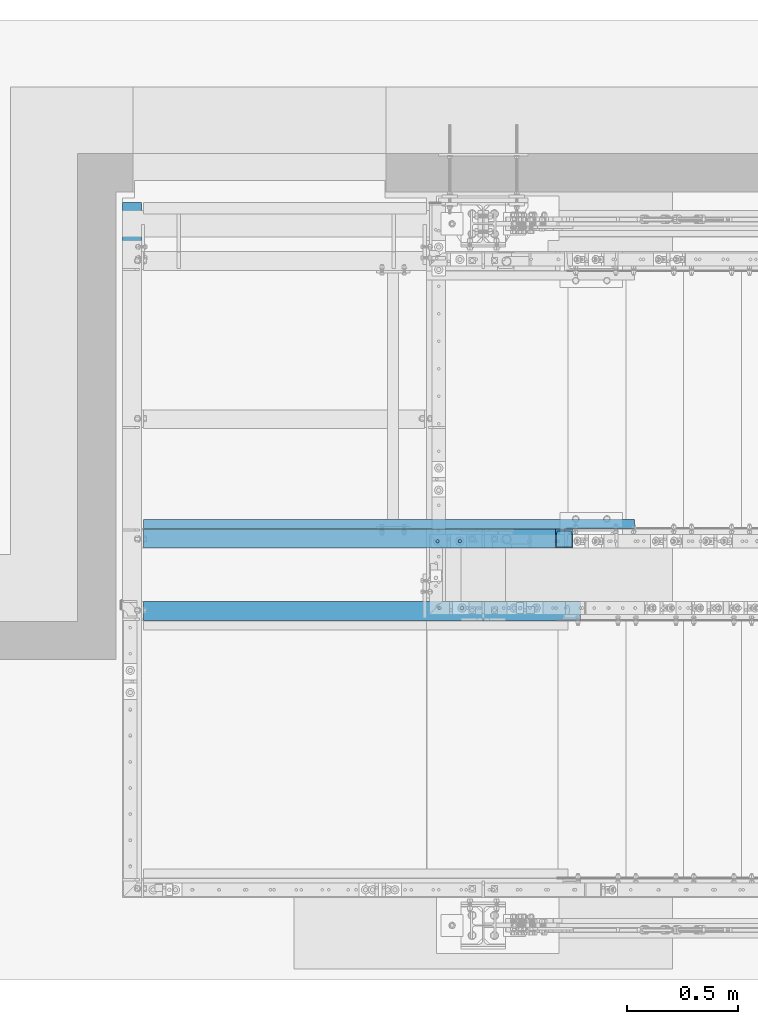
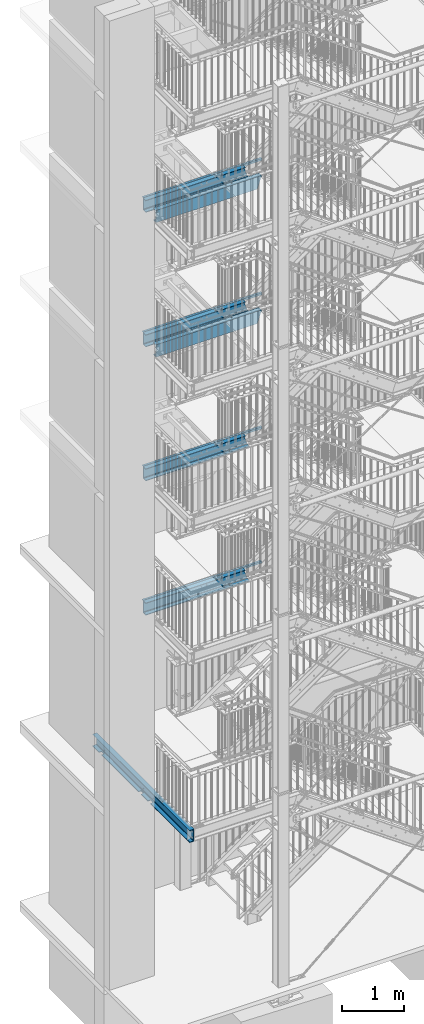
# One storey, part 115 of 825: 11 beams, 45 openings.
"""IFC2X3 building model written with IfcOpenShell, lengths in millimetres."""

import ifcopenshell
import ifcopenshell.guid

model = None  # the IFC model being written
_history = None  # IfcOwnerHistory: only IFC2X3 demands one
_inside = {}  # id of a spatial element -> (the spatial element, [elements in it])
_under = {}  # id of a project, library or spatial element -> (it, [spatial elements below it])
_declared = {}  # id of a project -> (the project, [libraries it declares])
_typed = {}  # id of a type object -> (the type object, [elements of that type])
_made_of = {}  # id of a material, layer set ... -> (it, [elements and type objects made of it])


def new_model(schema):
    """Start an empty IFC model of exactly this schema.

    Asked for "IFC4X3", IfcOpenShell would pick the latest addendum, in which some entities
    have other attributes; the version numbers below select the first issue.
    IFC2X3 requires an IfcOwnerHistory on every rooted entity: one is made here for all.
    """
    global model, _history
    if schema == "IFC4X3":
        model = ifcopenshell.file(schema_version=(4, 3, 0, 0))
    else:
        model = ifcopenshell.file(schema=schema)
    _inside.clear()
    _under.clear()
    _declared.clear()
    _typed.clear()
    _made_of.clear()
    _history = None
    if model.schema == "IFC2X3":
        org = make("IfcOrganization", Name="unknown")
        user = make(
            "IfcPersonAndOrganization",
            ThePerson=make("IfcPerson", FamilyName="unknown"),
            TheOrganization=org,
        )
        app = make(
            "IfcApplication",
            ApplicationDeveloper=org,
            Version="unknown",
            ApplicationFullName="unknown",
            ApplicationIdentifier="unknown",
        )
        _history = make(
            "IfcOwnerHistory",
            OwningUser=user,
            OwningApplication=app,
            ChangeAction="ADDED",
            CreationDate=0,
        )
    return model


def make(cls, **values):
    """One entity of the class cls with the attributes given. An attribute that is None is left unset."""
    return model.create_entity(
        cls, **{name: value for name, value in values.items() if value is not None}
    )


def entity(cls, *values):
    """Any entity or typed value of the class cls, its attributes in the order of the schema. None: left unset."""
    e = model.create_entity(cls)
    for i, value in enumerate(values):
        if value is not None:
            e[i] = value
    return e


def rooted(cls, **values):
    """An entity with a GlobalId (a new one), such as an element, a storey or a relation."""
    return make(cls, GlobalId=ifcopenshell.guid.new(), OwnerHistory=_history, **values)


def si_unit(unit_type, name, prefix=None):
    """IfcSIUnit, for example si_unit("LENGTHUNIT", "METRE", prefix="MILLI")."""
    return make("IfcSIUnit", UnitType=unit_type, Prefix=prefix, Name=name)


def converted_unit(unit_type, name, factor, base, dimensions=None, offset=None):
    """IfcConversionBasedUnit, such as the inch: factor (a typed value) times the base unit."""
    return make(
        "IfcConversionBasedUnit"
        if offset is None
        else "IfcConversionBasedUnitWithOffset",
        ConversionOffset=offset,
        Dimensions=None
        if dimensions is None
        else entity("IfcDimensionalExponents", *dimensions),
        UnitType=unit_type,
        Name=name,
        ConversionFactor=make(
            "IfcMeasureWithUnit", ValueComponent=factor, UnitComponent=base
        ),
    )


def assignment(units):
    """IfcUnitAssignment: the units of a project."""
    return None if units is None else make("IfcUnitAssignment", Units=units)


def point(xyz):
    """IfcCartesianPoint."""
    return None if xyz is None else make("IfcCartesianPoint", Coordinates=xyz)


def direction(xyz):
    """IfcDirection."""
    return None if xyz is None else make("IfcDirection", DirectionRatios=xyz)


def frame(location, z_axis=None, x_axis=None):
    """IfcAxis2Placement3D, a coordinate frame: its origin and axes. An axis left out is left unset."""
    return make(
        "IfcAxis2Placement3D",
        Location=point(location),
        Axis=direction(z_axis),
        RefDirection=direction(x_axis),
    )


def frame_2d(location, x_axis=None):
    """IfcAxis2Placement2D, a coordinate frame in the plane: its origin and x axis."""
    return make(
        "IfcAxis2Placement2D", Location=point(location), RefDirection=direction(x_axis)
    )


def origin():
    """The frame at (0, 0, 0) with its axes left unset."""
    return frame((0.0, 0.0, 0.0))


def origin_with_axes():
    """The frame at (0, 0, 0) with the z axis (0, 0, 1) and the x axis (1, 0, 0) written out."""
    return frame((0.0, 0.0, 0.0), z_axis=(0.0, 0.0, 1.0), x_axis=(1.0, 0.0, 0.0))


def origin_2d_with_axis():
    """The frame at (0, 0) in the plane with the x axis (1, 0) written out."""
    return frame_2d((0.0, 0.0), x_axis=(1.0, 0.0))


def place(relative_to, where):
    """IfcLocalPlacement: puts the frame where relative to a parent placement (None: the world)."""
    return make(
        "IfcLocalPlacement", PlacementRelTo=relative_to, RelativePlacement=where
    )


def context(
    kind, dimensions, precision=None, world=None, true_north=None, identifier=None
):
    """IfcGeometricRepresentationContext, for example the 3D "Model" context."""
    return make(
        "IfcGeometricRepresentationContext",
        ContextIdentifier=identifier,
        ContextType=kind,
        CoordinateSpaceDimension=dimensions,
        Precision=precision,
        WorldCoordinateSystem=world,
        TrueNorth=true_north,
    )


def project(units=None, contexts=None):
    """IfcProject with its units and contexts."""
    return rooted(
        "IfcProject",
        Name="project",
        RepresentationContexts=contexts,
        UnitsInContext=assignment(units),
    )


def spatial(cls, under=None, at=None, **own):
    """A site, building, storey or space (cls), placed at a placement, below another one or the project."""
    s = rooted(cls, ObjectPlacement=at, **own)
    if under is not None:
        _under.setdefault(under.id(), (under, []))[1].append(s)
    return s


def circle_curve(where, radius):
    """IfcCircle in the frame where."""
    return make("IfcCircle", Position=where, Radius=radius)


def line_curve(start, along, magnitude):
    """IfcLine from a point along a vector."""
    return make(
        "IfcLine",
        Pnt=point(start),
        Dir=make("IfcVector", Orientation=direction(along), Magnitude=magnitude),
    )


def trimmed(basis, trim1, trim2, sense, master):
    """IfcTrimmedCurve: the piece of a basis curve between two trims."""
    return make(
        "IfcTrimmedCurve",
        BasisCurve=basis,
        Trim1=trim1,
        Trim2=trim2,
        SenseAgreement=sense,
        MasterRepresentation=master,
    )


def segment(curve, same_sense, transition):
    """IfcCompositeCurveSegment."""
    return make(
        "IfcCompositeCurveSegment",
        Transition=transition,
        SameSense=same_sense,
        ParentCurve=curve,
    )


def composite_curve(segments, self_intersect=None):
    """IfcCompositeCurve: segments joined end to end."""
    return make("IfcCompositeCurve", Segments=segments, SelfIntersect=self_intersect)


def profile(cls, at=None, kind="AREA", **sizes):
    """A parametric profile (cls). Its sizes go by their IFC names, for example OverallWidth=200.0."""
    return make(cls, ProfileType=kind, Position=at, **sizes)


def circle(**sizes):
    """IfcCircleProfileDef."""
    return profile("IfcCircleProfileDef", **sizes)


def l_section(**sizes):
    """IfcLShapeProfileDef."""
    return profile("IfcLShapeProfileDef", **sizes)


def u_section(**sizes):
    """IfcUShapeProfileDef."""
    return profile("IfcUShapeProfileDef", **sizes)


def outline(outer, holes=None, kind="AREA"):
    """IfcArbitraryClosedProfileDef: a profile drawn as a closed curve; with holes, ...WithVoids."""
    if holes is None:
        return make("IfcArbitraryClosedProfileDef", ProfileType=kind, OuterCurve=outer)
    return make(
        "IfcArbitraryProfileDefWithVoids",
        ProfileType=kind,
        OuterCurve=outer,
        InnerCurves=holes,
    )


def extrude(swept, where, along, depth):
    """IfcExtrudedAreaSolid: the profile swept, set in the frame where, extruded along a direction by depth."""
    return make(
        "IfcExtrudedAreaSolid",
        SweptArea=swept,
        Position=where,
        ExtrudedDirection=direction(along),
        Depth=depth,
    )


def clip(a, b, op="DIFFERENCE"):
    """IfcBooleanClippingResult: the solid a cut by the half space b."""
    return make(
        "IfcBooleanClippingResult", Operator=op, FirstOperand=a, SecondOperand=b
    )


def halfspace(plane, agree):
    """IfcHalfSpaceSolid: all space on one side of the plane z = 0 of the frame plane."""
    return make(
        "IfcHalfSpaceSolid",
        BaseSurface=make("IfcPlane", Position=plane),
        AgreementFlag=agree,
    )


def shape(context_of_items, identifier, shape_type, items):
    """IfcShapeRepresentation: the items that make up one representation, for example the "Body"."""
    return make(
        "IfcShapeRepresentation",
        ContextOfItems=context_of_items,
        RepresentationIdentifier=identifier,
        RepresentationType=shape_type,
        Items=items,
    )


def material(Name=None, Category=None):
    """IfcMaterial."""
    return make("IfcMaterial", Name=Name, Category=Category)


def made_of(thing, what):
    """Note that an element or type object is made of a material, layer set ...; save() writes the relation."""
    if what is not None:
        _made_of.setdefault(what.id(), (what, []))[1].append(thing)
    return thing


def element(
    cls,
    number,
    at=None,
    inside=None,
    cuts=None,
    type_object=None,
    material=None,
    context=None,
    identifier="Body",
    shape_type=None,
    held_by="IfcProductDefinitionShape",
    body=None,
    shapes=None,
    **own,
):
    """One element of the class cls, such as IfcWall. Its Tag is "e" and its number.

    at: its placement. inside: the storey or other place that contains it. cuts: it is an
    opening in that element (IfcRelVoidsElement). A single representation is given by context,
    identifier, shape_type and body (its items); several are given by shapes. held_by: the class
    of the entity that holds the representations. save() writes the other relations.
    """
    e = rooted(cls, Tag="e%d" % number, ObjectPlacement=at, **own)
    if body is not None:
        shapes = [shape(context, identifier, shape_type, body)]
    if shapes is not None:
        e.Representation = make(held_by, Representations=shapes)
    if inside is not None:
        _inside.setdefault(inside.id(), (inside, []))[1].append(e)
    if cuts is not None:
        rooted(
            "IfcRelVoidsElement", RelatingBuildingElement=cuts, RelatedOpeningElement=e
        )
    if type_object is not None:
        _typed.setdefault(type_object.id(), (type_object, []))[1].append(e)
    return made_of(e, material)


def aggregate(whole, parts):
    """IfcRelAggregates: a whole, such as a stair, and the parts it consists of."""
    return rooted("IfcRelAggregates", RelatingObject=whole, RelatedObjects=parts)


def save(model, path):
    """Write the relations noted so far, then the file.

    IfcRelAggregates (storeys below a building ...), IfcRelContainedInSpatialStructure (elements
    in a storey), IfcRelDefinesByType, IfcRelAssociatesMaterial and IfcRelDeclares: one each for
    every whole, place, type object, material and project.
    """
    for whole, parts in _under.values():
        aggregate(whole, parts)
    for where, things in _inside.values():
        rooted(
            "IfcRelContainedInSpatialStructure",
            RelatedElements=things,
            RelatingStructure=where,
        )
    for kind, things in _typed.values():
        rooted("IfcRelDefinesByType", RelatedObjects=things, RelatingType=kind)
    for what, things in _made_of.values():
        rooted("IfcRelAssociatesMaterial", RelatedObjects=things, RelatingMaterial=what)
    for by, libraries in _declared.values():
        rooted("IfcRelDeclares", RelatingContext=by, RelatedDefinitions=libraries)
    model.write(path)


model = new_model("IFC2X3")

# Units and contexts
model_context = context("Model", 3, precision=1e-09, world=origin_with_axes())
ifc_project = project(units=[si_unit("LENGTHUNIT", "METRE", prefix="MILLI"), si_unit("AREAUNIT", "SQUARE_METRE"), si_unit("VOLUMEUNIT", "CUBIC_METRE"), converted_unit("PLANEANGLEUNIT", "DEGREE", entity("IfcPlaneAngleMeasure", 0.01745329), si_unit("PLANEANGLEUNIT", "RADIAN"), dimensions=[0, 0, 0, 0, 0, 0, 0])], contexts=[model_context])

# Site, building, storey
site_placement = place(None, origin_with_axes())
site = spatial("IfcSite", under=ifc_project, at=site_placement, Name="Cnopf'sche Kinderklinik", CompositionType="ELEMENT")
building_placement = place(site_placement, origin_with_axes())
building = spatial("IfcBuilding", under=site, at=building_placement, Name="Struktur 1", CompositionType="ELEMENT")
storey_placement = place(building_placement, origin_with_axes())
storey = spatial("IfcBuildingStorey", under=building, at=storey_placement, Name="Default Storey", CompositionType="ELEMENT", Elevation=0.0)

# Beam
ifc_material = material(Name="S235JR")
beam_1_placement = place(None, frame((5535.970929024, 6160.936971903, 9940.8), z_axis=(1.0, 0.0, 0.0), x_axis=(0.0, 0.0, -1.0)))
element("IfcBeam", 1, at=beam_1_placement, inside=storey, material=ifc_material, Name="BottomLanding#3", ObjectType="BottomLanding#3", context=model_context, shape_type="SweptSolid", body=[
    extrude(l_section(Depth=40.0, Width=40.0, Thickness=4.0, FilletRadius=6.0, EdgeRadius=3.0, at=frame_2d((8.8, 8.8))), origin(), (0.0, 0.0, -1.0), 2204.257526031),
])

# Beam, openings
beam_2_placement = place(None, frame((3074.409632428, 6124.436971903, 9832.0), z_axis=(-1.0, 0.0, 0.0), x_axis=(0.0, -1.0, 0.0)))
beam_2 = element("IfcBeam", 2, at=beam_2_placement, inside=storey, material=ifc_material, Name="BottomLanding#1", ObjectType="BottomLanding#1", context=model_context, shape_type="Clipping", body=[
    clip(clip(extrude(u_section(Depth=240.0, FlangeWidth=85.0, WebThickness=9.5, FlangeThickness=13.0, FilletRadius=13.0, EdgeRadius=6.5, FlangeSlope=4.574, at=frame_2d((20.2, 0.0))), origin(), (0.0, 0.0, -1.0), 2366.776191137), halfspace(frame((6124.436971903, -9832.0, -257.304770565), z_axis=(0.0, 0.0, -1.0), x_axis=(-1.0, 0.0, 0.0)), True)), halfspace(frame((6124.436971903, -7374.852372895, -4528.957619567), z_axis=(0.0, -0.307506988, 0.951545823), x_axis=(1.0, 0.0, 0.0)), True)),
])
opening_1_placement = place(beam_2_placement, frame((-12.3, 20.0, -1420.302770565), z_axis=(1.0, 0.0, 0.0), x_axis=(0.0, 1.0, 0.0)))
element("IfcOpeningElement", 3, at=opening_1_placement, cuts=beam_2, ObjectType="Opening", context=model_context, shape_type="SweptSolid", body=[
    extrude(circle(Radius=7.001, at=frame_2d((0.0, -7.001), x_axis=(1.0, 0.0))), origin(), (0.0, 0.0, -1.0), 10.5),
])
opening_2_placement = place(beam_2_placement, frame((-12.3, 20.0, -1320.302770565), z_axis=(1.0, 0.0, 0.0), x_axis=(0.0, 1.0, 0.0)))
element("IfcOpeningElement", 4, at=opening_2_placement, cuts=beam_2, ObjectType="Opening", context=model_context, shape_type="SweptSolid", body=[
    extrude(circle(Radius=7.001, at=frame_2d((0.0, -7.001), x_axis=(1.0, 0.0))), origin(), (0.0, 0.0, -1.0), 10.5),
])
opening_3_placement = place(beam_2_placement, frame((32.7, 120.5, -1670.302770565), z_axis=(0.0, 1.0, 0.0), x_axis=(-1.0, 0.0, 0.0)))
element("IfcOpeningElement", 5, at=opening_3_placement, cuts=beam_2, ObjectType="Opening", context=model_context, shape_type="SweptSolid", body=[
    extrude(circle(Radius=7.001, at=frame_2d((0.0, -7.001), x_axis=(1.0, 0.0))), origin(), (0.0, 0.0, -1.0), 14.0),
])
opening_4_placement = place(beam_2_placement, frame((32.7, 120.5, -1570.302770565), z_axis=(0.0, 1.0, 0.0), x_axis=(-1.0, 0.0, 0.0)))
element("IfcOpeningElement", 6, at=opening_4_placement, cuts=beam_2, ObjectType="Opening", context=model_context, shape_type="SweptSolid", body=[
    extrude(circle(Radius=7.001, at=frame_2d((0.0, -7.001), x_axis=(1.0, 0.0))), origin(), (0.0, 0.0, -1.0), 14.0),
])
opening_5_placement = place(beam_2_placement, frame((22.7, -120.5, -1732.303770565), z_axis=(0.0, 1.0, 0.0), x_axis=(-1.0, 0.0, 0.0)))
element("IfcOpeningElement", 7, at=opening_5_placement, cuts=beam_2, ObjectType="Opening", context=model_context, shape_type="SweptSolid", body=[
    extrude(circle(Radius=7.001, at=origin_2d_with_axis()), origin(), (0.0, 0.0, 1.0), 14.0),
])
opening_6_placement = place(beam_2_placement, frame((22.7, -120.5, -1832.303770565), z_axis=(0.0, 1.0, 0.0), x_axis=(-1.0, 0.0, 0.0)))
element("IfcOpeningElement", 8, at=opening_6_placement, cuts=beam_2, ObjectType="Opening", context=model_context, shape_type="SweptSolid", body=[
    extrude(circle(Radius=7.001, at=origin_2d_with_axis()), origin(), (0.0, 0.0, 1.0), 14.0),
])

beam_3_placement = place(None, frame((3074.409632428, 6124.436971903, 7200.0), z_axis=(-1.0, 0.0, 0.0), x_axis=(0.0, -1.0, 0.0)))
beam_3 = element("IfcBeam", 9, at=beam_3_placement, inside=storey, material=ifc_material, Name="BottomLanding#1", ObjectType="BottomLanding#1", context=model_context, shape_type="Clipping", body=[
    clip(clip(extrude(u_section(Depth=240.0, FlangeWidth=85.0, WebThickness=9.5, FlangeThickness=13.0, FilletRadius=13.0, EdgeRadius=6.5, FlangeSlope=4.574, at=frame_2d((20.2, 0.0))), origin(), (0.0, 0.0, -1.0), 2366.919417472), halfspace(frame((6124.436971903, -7200.0, -257.304770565), z_axis=(0.0, 0.0, -1.0), x_axis=(-1.0, 0.0, 0.0)), True)), halfspace(frame((6124.436971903, -4987.874923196, -3760.219943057), z_axis=(0.0, -0.307936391, 0.951406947), x_axis=(1.0, 0.0, 0.0)), True)),
])
opening_7_placement = place(beam_3_placement, frame((-12.3, 20.0, -1420.302770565), z_axis=(1.0, 0.0, 0.0), x_axis=(0.0, 1.0, 0.0)))
element("IfcOpeningElement", 10, at=opening_7_placement, cuts=beam_3, ObjectType="Opening", context=model_context, shape_type="SweptSolid", body=[
    extrude(circle(Radius=7.001, at=frame_2d((0.0, -7.001), x_axis=(1.0, 0.0))), origin(), (0.0, 0.0, -1.0), 10.5),
])
opening_8_placement = place(beam_3_placement, frame((-12.3, 20.0, -1320.302770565), z_axis=(1.0, 0.0, 0.0), x_axis=(0.0, 1.0, 0.0)))
element("IfcOpeningElement", 11, at=opening_8_placement, cuts=beam_3, ObjectType="Opening", context=model_context, shape_type="SweptSolid", body=[
    extrude(circle(Radius=7.001, at=frame_2d((0.0, -7.001), x_axis=(1.0, 0.0))), origin(), (0.0, 0.0, -1.0), 10.5),
])
opening_9_placement = place(beam_3_placement, frame((32.7, 120.5, -1670.302770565), z_axis=(0.0, 1.0, 0.0), x_axis=(-1.0, 0.0, 0.0)))
element("IfcOpeningElement", 12, at=opening_9_placement, cuts=beam_3, ObjectType="Opening", context=model_context, shape_type="SweptSolid", body=[
    extrude(circle(Radius=7.001, at=frame_2d((0.0, -7.001), x_axis=(1.0, 0.0))), origin(), (0.0, 0.0, -1.0), 14.0),
])
opening_10_placement = place(beam_3_placement, frame((32.7, 120.5, -1570.302770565), z_axis=(0.0, 1.0, 0.0), x_axis=(-1.0, 0.0, 0.0)))
element("IfcOpeningElement", 13, at=opening_10_placement, cuts=beam_3, ObjectType="Opening", context=model_context, shape_type="SweptSolid", body=[
    extrude(circle(Radius=7.001, at=frame_2d((0.0, -7.001), x_axis=(1.0, 0.0))), origin(), (0.0, 0.0, -1.0), 14.0),
])
opening_11_placement = place(beam_3_placement, frame((22.7, -120.5, -1832.303770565), z_axis=(0.0, 1.0, 0.0), x_axis=(-1.0, 0.0, 0.0)))
element("IfcOpeningElement", 14, at=opening_11_placement, cuts=beam_3, ObjectType="Opening", context=model_context, shape_type="SweptSolid", body=[
    extrude(circle(Radius=7.001, at=origin_2d_with_axis()), origin(), (0.0, 0.0, 1.0), 14.0),
])
opening_12_placement = place(beam_3_placement, frame((22.7, -120.5, -1732.303770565), z_axis=(0.0, 1.0, 0.0), x_axis=(-1.0, 0.0, 0.0)))
element("IfcOpeningElement", 15, at=opening_12_placement, cuts=beam_3, ObjectType="Opening", context=model_context, shape_type="SweptSolid", body=[
    extrude(circle(Radius=7.001, at=origin_2d_with_axis()), origin(), (0.0, 0.0, 1.0), 14.0),
])

# Beam
beam_4_placement = place(None, frame((5535.66941246, 6160.936971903, 7308.8), z_axis=(1.0, 0.0, 0.0), x_axis=(0.0, 0.0, -1.0)))
element("IfcBeam", 16, at=beam_4_placement, inside=storey, material=ifc_material, Name="BottomLanding#3", ObjectType="BottomLanding#3", context=model_context, shape_type="SweptSolid", body=[
    extrude(l_section(Depth=40.0, Width=40.0, Thickness=4.0, FilletRadius=6.0, EdgeRadius=3.0, at=frame_2d((8.8, 8.8))), origin(), (0.0, 0.0, -1.0), 2203.956009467),
])

# Beam, openings
beam_5_placement = place(None, frame((3074.409632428, 6124.436971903, 12459.0), z_axis=(-1.0, 0.0, 0.0), x_axis=(0.0, -1.0, 0.0)))
beam_5 = element("IfcBeam", 17, at=beam_5_placement, inside=storey, material=ifc_material, Name="BottomLanding#1", ObjectType="BottomLanding#1", context=model_context, shape_type="Clipping", body=[
    clip(clip(extrude(u_section(Depth=240.0, FlangeWidth=85.0, WebThickness=9.5, FlangeThickness=13.0, FilletRadius=13.0, EdgeRadius=6.5, FlangeSlope=4.574, at=frame_2d((20.2, 0.0))), origin(), (0.0, 0.0, -1.0), 2367.005168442), halfspace(frame((6124.436971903, -12459.0, -257.304770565), z_axis=(0.0, 0.0, -1.0), x_axis=(-1.0, 0.0, 0.0)), True)), halfspace(frame((6124.436971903, -9745.042702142, -5302.956230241), z_axis=(0.0, -0.308193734, 0.951323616), x_axis=(1.0, 0.0, 0.0)), True)),
])
opening_13_placement = place(beam_5_placement, frame((-12.3, 20.0, -1420.302770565), z_axis=(1.0, 0.0, 0.0), x_axis=(0.0, 1.0, 0.0)))
element("IfcOpeningElement", 18, at=opening_13_placement, cuts=beam_5, ObjectType="Opening", context=model_context, shape_type="SweptSolid", body=[
    extrude(circle(Radius=7.001, at=frame_2d((0.0, -7.001), x_axis=(1.0, 0.0))), origin(), (0.0, 0.0, -1.0), 10.5),
])
opening_14_placement = place(beam_5_placement, frame((-12.3, 20.0, -1320.302770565), z_axis=(1.0, 0.0, 0.0), x_axis=(0.0, 1.0, 0.0)))
element("IfcOpeningElement", 19, at=opening_14_placement, cuts=beam_5, ObjectType="Opening", context=model_context, shape_type="SweptSolid", body=[
    extrude(circle(Radius=7.001, at=frame_2d((0.0, -7.001), x_axis=(1.0, 0.0))), origin(), (0.0, 0.0, -1.0), 10.5),
])
opening_15_placement = place(beam_5_placement, frame((32.7, 120.5, -1670.302770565), z_axis=(0.0, 1.0, 0.0), x_axis=(-1.0, 0.0, 0.0)))
element("IfcOpeningElement", 20, at=opening_15_placement, cuts=beam_5, ObjectType="Opening", context=model_context, shape_type="SweptSolid", body=[
    extrude(circle(Radius=7.001, at=frame_2d((0.0, -7.001), x_axis=(1.0, 0.0))), origin(), (0.0, 0.0, -1.0), 14.0),
])
opening_16_placement = place(beam_5_placement, frame((32.7, 120.5, -1570.302770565), z_axis=(0.0, 1.0, 0.0), x_axis=(-1.0, 0.0, 0.0)))
element("IfcOpeningElement", 21, at=opening_16_placement, cuts=beam_5, ObjectType="Opening", context=model_context, shape_type="SweptSolid", body=[
    extrude(circle(Radius=7.001, at=frame_2d((0.0, -7.001), x_axis=(1.0, 0.0))), origin(), (0.0, 0.0, -1.0), 14.0),
])
opening_17_placement = place(beam_5_placement, frame((22.7, -120.5, -1732.303770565), z_axis=(0.0, 1.0, 0.0), x_axis=(-1.0, 0.0, 0.0)))
element("IfcOpeningElement", 22, at=opening_17_placement, cuts=beam_5, ObjectType="Opening", context=model_context, shape_type="SweptSolid", body=[
    extrude(circle(Radius=7.001, at=origin_2d_with_axis()), origin(), (0.0, 0.0, 1.0), 14.0),
])
opening_18_placement = place(beam_5_placement, frame((22.7, -120.5, -1832.303770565), z_axis=(0.0, 1.0, 0.0), x_axis=(-1.0, 0.0, 0.0)))
element("IfcOpeningElement", 23, at=opening_18_placement, cuts=beam_5, ObjectType="Opening", context=model_context, shape_type="SweptSolid", body=[
    extrude(circle(Radius=7.001, at=origin_2d_with_axis()), origin(), (0.0, 0.0, 1.0), 14.0),
])

# Beam
beam_6_placement = place(None, frame((5535.489211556, 6160.936971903, 12567.8), z_axis=(1.0, 0.0, 0.0), x_axis=(0.0, 0.0, -1.0)))
element("IfcBeam", 24, at=beam_6_placement, inside=storey, material=ifc_material, Name="BottomLanding#3", ObjectType="BottomLanding#3", context=model_context, shape_type="SweptSolid", body=[
    extrude(l_section(Depth=40.0, Width=40.0, Thickness=4.0, FilletRadius=6.0, EdgeRadius=3.0, at=frame_2d((8.8, 8.8))), origin(), (0.0, 0.0, -1.0), 2203.775808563),
])

# Beam, openings
beam_7_placement = place(None, frame((3074.409632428, 6124.436971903, 15094.0), z_axis=(-1.0, 0.0, 0.0), x_axis=(0.0, -1.0, 0.0)))
beam_7 = element("IfcBeam", 25, at=beam_7_placement, inside=storey, material=ifc_material, Name="BottomLanding#1", ObjectType="BottomLanding#1", context=model_context, shape_type="Clipping", body=[
    clip(clip(extrude(u_section(Depth=240.0, FlangeWidth=85.0, WebThickness=9.5, FlangeThickness=13.0, FilletRadius=13.0, EdgeRadius=6.5, FlangeSlope=4.574, at=frame_2d((20.2, 0.0))), origin(), (0.0, 0.0, -1.0), 2366.575023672), halfspace(frame((6124.436971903, -15094.0, -257.304770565), z_axis=(0.0, 0.0, -1.0), x_axis=(-1.0, 0.0, 0.0)), True)), halfspace(frame((6124.436971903, -12147.607204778, -6062.628184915), z_axis=(0.0, -0.306904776, 0.951740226), x_axis=(1.0, 0.0, 0.0)), True)),
])
opening_19_placement = place(beam_7_placement, frame((-12.3, 20.0, -1420.302770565), z_axis=(1.0, 0.0, 0.0), x_axis=(0.0, 1.0, 0.0)))
element("IfcOpeningElement", 26, at=opening_19_placement, cuts=beam_7, ObjectType="Opening", context=model_context, shape_type="SweptSolid", body=[
    extrude(circle(Radius=7.001, at=frame_2d((0.0, -7.001), x_axis=(1.0, 0.0))), origin(), (0.0, 0.0, -1.0), 10.5),
])
opening_20_placement = place(beam_7_placement, frame((-12.3, 20.0, -1320.302770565), z_axis=(1.0, 0.0, 0.0), x_axis=(0.0, 1.0, 0.0)))
element("IfcOpeningElement", 27, at=opening_20_placement, cuts=beam_7, ObjectType="Opening", context=model_context, shape_type="SweptSolid", body=[
    extrude(circle(Radius=7.001, at=frame_2d((0.0, -7.001), x_axis=(1.0, 0.0))), origin(), (0.0, 0.0, -1.0), 10.5),
])
opening_21_placement = place(beam_7_placement, frame((32.7, 120.5, -1670.302770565), z_axis=(0.0, 1.0, 0.0), x_axis=(-1.0, 0.0, 0.0)))
element("IfcOpeningElement", 28, at=opening_21_placement, cuts=beam_7, ObjectType="Opening", context=model_context, shape_type="SweptSolid", body=[
    extrude(circle(Radius=7.001, at=frame_2d((0.0, -7.001), x_axis=(1.0, 0.0))), origin(), (0.0, 0.0, -1.0), 14.0),
])
opening_22_placement = place(beam_7_placement, frame((32.7, 120.5, -1570.302770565), z_axis=(0.0, 1.0, 0.0), x_axis=(-1.0, 0.0, 0.0)))
element("IfcOpeningElement", 29, at=opening_22_placement, cuts=beam_7, ObjectType="Opening", context=model_context, shape_type="SweptSolid", body=[
    extrude(circle(Radius=7.001, at=frame_2d((0.0, -7.001), x_axis=(1.0, 0.0))), origin(), (0.0, 0.0, -1.0), 14.0),
])
opening_23_placement = place(beam_7_placement, frame((22.7, -120.5, -1732.303770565), z_axis=(0.0, 1.0, 0.0), x_axis=(-1.0, 0.0, 0.0)))
element("IfcOpeningElement", 30, at=opening_23_placement, cuts=beam_7, ObjectType="Opening", context=model_context, shape_type="SweptSolid", body=[
    extrude(circle(Radius=7.001, at=origin_2d_with_axis()), origin(), (0.0, 0.0, 1.0), 14.0),
])
opening_24_placement = place(beam_7_placement, frame((22.7, -120.5, -1832.303770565), z_axis=(0.0, 1.0, 0.0), x_axis=(-1.0, 0.0, 0.0)))
element("IfcOpeningElement", 31, at=opening_24_placement, cuts=beam_7, ObjectType="Opening", context=model_context, shape_type="SweptSolid", body=[
    extrude(circle(Radius=7.001, at=origin_2d_with_axis()), origin(), (0.0, 0.0, 1.0), 14.0),
])

# Beam
beam_8_placement = place(None, frame((5536.395549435, 6160.936971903, 15202.8), z_axis=(1.0, 0.0, 0.0), x_axis=(0.0, 0.0, -1.0)))
element("IfcBeam", 32, at=beam_8_placement, inside=storey, material=ifc_material, Name="BottomLanding#3", ObjectType="BottomLanding#3", context=model_context, shape_type="SweptSolid", body=[
    extrude(l_section(Depth=40.0, Width=40.0, Thickness=4.0, FilletRadius=6.0, EdgeRadius=3.0, at=frame_2d((8.8, 8.8))), origin(), (0.0, 0.0, -1.0), 2204.682146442),
])

# Beam, openings
beam_9_placement = place(None, frame((5552.034700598, 5759.036971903, 12459.0), z_axis=(1.0, 0.0, 0.0), x_axis=(0.0, 1.0, 0.0)))
beam_9 = element("IfcBeam", 33, at=beam_9_placement, inside=storey, material=ifc_material, Name="Stringer", ObjectType="Stringer", context=model_context, shape_type="Clipping", body=[
    clip(clip(extrude(u_section(Depth=240.0, FlangeWidth=85.0, WebThickness=9.5, FlangeThickness=13.0, FilletRadius=13.0, EdgeRadius=6.5, FlangeSlope=4.574, at=frame_2d((20.2, 0.0))), origin(), (0.0, 0.0, -1.0), 2477.62506817), halfspace(frame((-5759.036971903, -12459.0, -2220.320297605), z_axis=(0.0, 0.0, 1.0), x_axis=(1.0, 0.0, 0.0)), True)), halfspace(frame((-5759.036971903, -12818.039088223, -4441.028582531), z_axis=(0.0, 0.307506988, -0.951545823), x_axis=(-1.0, 0.0, 0.0)), True)),
])
opening_25_placement = place(beam_9_placement, frame((32.7, 120.5, -883.320297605), z_axis=(0.0, 1.0, 0.0), x_axis=(-1.0, 0.0, 0.0)))
element("IfcOpeningElement", 34, at=opening_25_placement, cuts=beam_9, ObjectType="Opening", context=model_context, shape_type="SweptSolid", body=[
    extrude(circle(Radius=7.001, at=frame_2d((0.0, -7.001), x_axis=(1.0, 0.0))), origin(), (0.0, 0.0, -1.0), 14.0),
])
opening_26_placement = place(beam_9_placement, frame((32.7, 120.5, -783.320297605), z_axis=(0.0, 1.0, 0.0), x_axis=(-1.0, 0.0, 0.0)))
element("IfcOpeningElement", 35, at=opening_26_placement, cuts=beam_9, ObjectType="Opening", context=model_context, shape_type="SweptSolid", body=[
    extrude(circle(Radius=7.001, at=frame_2d((0.0, -7.001), x_axis=(1.0, 0.0))), origin(), (0.0, 0.0, -1.0), 14.0),
])
opening_27_placement = place(beam_9_placement, frame((15.699, -120.5, -645.321297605), z_axis=(0.0, -1.0, 0.0), x_axis=(1.0, 0.0, 0.0)))
element("IfcOpeningElement", 36, at=opening_27_placement, cuts=beam_9, ObjectType="Opening", context=model_context, shape_type="SweptSolid", body=[
    extrude(circle(Radius=7.001, at=frame_2d((7.001, 0.0), x_axis=(1.0, 0.0))), origin(), (0.0, 0.0, -1.0), 14.0),
])
opening_28_placement = place(beam_9_placement, frame((15.699, -120.5, -745.321297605), z_axis=(0.0, -1.0, 0.0), x_axis=(1.0, 0.0, 0.0)))
element("IfcOpeningElement", 37, at=opening_28_placement, cuts=beam_9, ObjectType="Opening", context=model_context, shape_type="SweptSolid", body=[
    extrude(circle(Radius=7.001, at=frame_2d((7.001, 0.0), x_axis=(1.0, 0.0))), origin(), (0.0, 0.0, -1.0), 14.0),
])

beam_10_placement = place(None, frame((5551.927134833, 5759.036971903, 15094.0), z_axis=(1.0, 0.0, 0.0), x_axis=(0.0, 1.0, 0.0)))
beam_10 = element("IfcBeam", 38, at=beam_10_placement, inside=storey, material=ifc_material, Name="Stringer", ObjectType="Stringer", context=model_context, shape_type="Clipping", body=[
    clip(clip(extrude(u_section(Depth=240.0, FlangeWidth=85.0, WebThickness=9.5, FlangeThickness=13.0, FilletRadius=13.0, EdgeRadius=6.5, FlangeSlope=4.574, at=frame_2d((20.2, 0.0))), origin(), (0.0, 0.0, -1.0), 2477.517502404), halfspace(frame((-5759.036971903, -15094.0, -2220.21273184), z_axis=(0.0, 0.0, 1.0), x_axis=(1.0, 0.0, 0.0)), True)), halfspace(frame((-5759.036971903, -15200.485604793, -5223.230411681), z_axis=(0.0, 0.308193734, -0.951323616), x_axis=(-1.0, 0.0, 0.0)), True)),
])
opening_29_placement = place(beam_10_placement, frame((32.7, 120.5, -883.21273184), z_axis=(0.0, 1.0, 0.0), x_axis=(-1.0, 0.0, 0.0)))
element("IfcOpeningElement", 39, at=opening_29_placement, cuts=beam_10, ObjectType="Opening", context=model_context, shape_type="SweptSolid", body=[
    extrude(circle(Radius=7.001, at=frame_2d((0.0, -7.001), x_axis=(1.0, 0.0))), origin(), (0.0, 0.0, -1.0), 14.0),
])
opening_30_placement = place(beam_10_placement, frame((32.7, 120.5, -783.21273184), z_axis=(0.0, 1.0, 0.0), x_axis=(-1.0, 0.0, 0.0)))
element("IfcOpeningElement", 40, at=opening_30_placement, cuts=beam_10, ObjectType="Opening", context=model_context, shape_type="SweptSolid", body=[
    extrude(circle(Radius=7.001, at=frame_2d((0.0, -7.001), x_axis=(1.0, 0.0))), origin(), (0.0, 0.0, -1.0), 14.0),
])
opening_31_placement = place(beam_10_placement, frame((15.699, -120.5, -645.21373184), z_axis=(0.0, -1.0, 0.0), x_axis=(1.0, 0.0, 0.0)))
element("IfcOpeningElement", 41, at=opening_31_placement, cuts=beam_10, ObjectType="Opening", context=model_context, shape_type="SweptSolid", body=[
    extrude(circle(Radius=7.001, at=frame_2d((7.001, 0.0), x_axis=(1.0, 0.0))), origin(), (0.0, 0.0, -1.0), 14.0),
])
opening_32_placement = place(beam_10_placement, frame((15.699, -120.5, -745.21373184), z_axis=(0.0, -1.0, 0.0), x_axis=(1.0, 0.0, 0.0)))
element("IfcOpeningElement", 42, at=opening_32_placement, cuts=beam_10, ObjectType="Opening", context=model_context, shape_type="SweptSolid", body=[
    extrude(circle(Radius=7.001, at=frame_2d((7.001, 0.0), x_axis=(1.0, 0.0))), origin(), (0.0, 0.0, -1.0), 14.0),
])

beam_11_placement = place(None, frame((3299.413402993, 4491.736971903, 3727.0), z_axis=(0.0, 1.0, 0.0), x_axis=(-1.0, 0.0, 0.0)))
beam_11 = element("IfcBeam", 43, at=beam_11_placement, inside=storey, material=ifc_material, Name="Girder", ObjectType="Girder", context=model_context, shape_type="SweptSolid", body=[
    extrude(u_section(Depth=240.0, FlangeWidth=85.0, WebThickness=9.5, FlangeThickness=13.0, FilletRadius=13.0, EdgeRadius=6.5, FlangeSlope=4.574, at=frame_2d((20.2, 0.0))), origin(), (0.0, 0.0, 1.0), 3120.0),
])
opening_33_placement = place(beam_11_placement, frame((81.62874817, -30.0, 1269.999), z_axis=(0.0, 1.0, 0.0), x_axis=(-0.707106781, 0.0, -0.707106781)))
element("IfcOpeningElement", 44, at=opening_33_placement, cuts=beam_11, ObjectType="Opening", context=model_context, shape_type="SweptSolid", body=[
    extrude(outline(composite_curve([segment(trimmed(circle_curve(frame_2d((7.071067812, 7.071067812), x_axis=(1.0, 0.0)), 10.0), [point((0.0, 0.0))], [point((14.142135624, 0.0))], True, "CARTESIAN"), True, "CONTINUOUS"), segment(trimmed(line_curve((14.142135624, 0.0), (0.707106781, 0.707106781), 48.92974817), [point((14.142135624, 0.0))], [point((48.740692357, 34.598556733))], True, "CARTESIAN"), True, "CONTINUOUS"), segment(trimmed(circle_curve(frame_2d((41.669624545, 41.669624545), x_axis=(1.0, 0.0)), 10.0), [point((48.740692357, 34.598556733))], [point((48.740692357, 48.740692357))], True, "CARTESIAN"), True, "CONTINUOUS"), segment(trimmed(line_curve((48.740692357, 48.740692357), (-0.707106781, 0.707106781), 60.002), [point((48.740692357, 48.740692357))], [point((6.312871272, 91.168513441))], True, "CARTESIAN"), True, "CONTINUOUS"), segment(trimmed(circle_curve(frame_2d((-0.75819654, 84.097445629), x_axis=(1.0, 0.0)), 10.0), [point((6.312871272, 91.168513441))], [point((-7.829264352, 91.168513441))], True, "CARTESIAN"), True, "CONTINUOUS"), segment(trimmed(line_curve((-7.829264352, 91.168513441), (-0.707106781, -0.707106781), 48.92974817), [point((-7.829264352, 91.168513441))], [point((-42.427821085, 56.569956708))], True, "CARTESIAN"), True, "CONTINUOUS"), segment(trimmed(circle_curve(frame_2d((-35.356753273, 49.498888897), x_axis=(1.0, 0.0)), 10.0), [point((-42.427821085, 56.569956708))], [point((-42.427821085, 42.427821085))], True, "CARTESIAN"), True, "CONTINUOUS"), segment(trimmed(line_curve((-42.427821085, 42.427821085), (0.707106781, -0.707106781), 60.002), [point((-42.427821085, 42.427821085))], [point((0.0, 0.0))], True, "CARTESIAN"), True, "CONTINUOUS")], self_intersect=False)), origin(), (0.0, 0.0, -1.0), 190.1),
])
opening_34_placement = place(beam_11_placement, frame((82.514590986, -30.0, 1569.999), z_axis=(0.0, 1.0, 0.0), x_axis=(-0.707106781, 0.0, -0.707106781)))
element("IfcOpeningElement", 45, at=opening_34_placement, cuts=beam_11, ObjectType="Opening", context=model_context, shape_type="SweptSolid", body=[
    extrude(outline(composite_curve([segment(trimmed(circle_curve(frame_2d((7.071067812, 7.071067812), x_axis=(1.0, 0.0)), 10.0), [point((0.0, 0.0))], [point((14.142135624, 0.0))], True, "CARTESIAN"), True, "CONTINUOUS"), segment(trimmed(line_curve((14.142135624, 0.0), (0.707106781, 0.707106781), 49.815590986), [point((14.142135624, 0.0))], [point((49.367077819, 35.224942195))], True, "CARTESIAN"), True, "CONTINUOUS"), segment(trimmed(circle_curve(frame_2d((42.296010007, 42.296010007), x_axis=(1.0, 0.0)), 10.0), [point((49.367077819, 35.224942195))], [point((49.367077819, 49.367077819))], True, "CARTESIAN"), True, "CONTINUOUS"), segment(trimmed(line_curve((49.367077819, 49.367077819), (-0.707106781, 0.707106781), 60.002), [point((49.367077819, 49.367077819))], [point((6.939256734, 91.794898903))], True, "CARTESIAN"), True, "CONTINUOUS"), segment(trimmed(circle_curve(frame_2d((-0.131811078, 84.723831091), x_axis=(1.0, 0.0)), 10.0), [point((6.939256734, 91.794898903))], [point((-7.20287889, 91.794898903))], True, "CARTESIAN"), True, "CONTINUOUS"), segment(trimmed(line_curve((-7.20287889, 91.794898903), (-0.707106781, -0.707106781), 49.815590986), [point((-7.20287889, 91.794898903))], [point((-42.427821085, 56.569956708))], True, "CARTESIAN"), True, "CONTINUOUS"), segment(trimmed(circle_curve(frame_2d((-35.356753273, 49.498888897), x_axis=(1.0, 0.0)), 10.0), [point((-42.427821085, 56.569956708))], [point((-42.427821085, 42.427821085))], True, "CARTESIAN"), True, "CONTINUOUS"), segment(trimmed(line_curve((-42.427821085, 42.427821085), (0.707106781, -0.707106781), 60.002), [point((-42.427821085, 42.427821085))], [point((0.0, 0.0))], True, "CARTESIAN"), True, "CONTINUOUS")], self_intersect=False)), origin(), (0.0, 0.0, -1.0), 190.1),
])
opening_35_placement = place(beam_11_placement, frame((82.514590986, -30.0, 2839.999), z_axis=(0.0, 1.0, 0.0), x_axis=(-0.707106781, 0.0, -0.707106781)))
element("IfcOpeningElement", 46, at=opening_35_placement, cuts=beam_11, ObjectType="Opening", context=model_context, shape_type="SweptSolid", body=[
    extrude(outline(composite_curve([segment(trimmed(circle_curve(frame_2d((7.071067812, 7.071067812), x_axis=(1.0, 0.0)), 10.0), [point((0.0, 0.0))], [point((14.142135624, 0.0))], True, "CARTESIAN"), True, "CONTINUOUS"), segment(trimmed(line_curve((14.142135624, 0.0), (0.707106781, 0.707106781), 49.815590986), [point((14.142135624, 0.0))], [point((49.367077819, 35.224942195))], True, "CARTESIAN"), True, "CONTINUOUS"), segment(trimmed(circle_curve(frame_2d((42.296010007, 42.296010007), x_axis=(1.0, 0.0)), 10.0), [point((49.367077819, 35.224942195))], [point((49.367077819, 49.367077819))], True, "CARTESIAN"), True, "CONTINUOUS"), segment(trimmed(line_curve((49.367077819, 49.367077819), (-0.707106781, 0.707106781), 60.002), [point((49.367077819, 49.367077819))], [point((6.939256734, 91.794898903))], True, "CARTESIAN"), True, "CONTINUOUS"), segment(trimmed(circle_curve(frame_2d((-0.131811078, 84.723831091), x_axis=(1.0, 0.0)), 10.0), [point((6.939256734, 91.794898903))], [point((-7.20287889, 91.794898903))], True, "CARTESIAN"), True, "CONTINUOUS"), segment(trimmed(line_curve((-7.20287889, 91.794898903), (-0.707106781, -0.707106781), 49.815590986), [point((-7.20287889, 91.794898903))], [point((-42.427821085, 56.569956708))], True, "CARTESIAN"), True, "CONTINUOUS"), segment(trimmed(circle_curve(frame_2d((-35.356753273, 49.498888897), x_axis=(1.0, 0.0)), 10.0), [point((-42.427821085, 56.569956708))], [point((-42.427821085, 42.427821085))], True, "CARTESIAN"), True, "CONTINUOUS"), segment(trimmed(line_curve((-42.427821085, 42.427821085), (0.707106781, -0.707106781), 60.002), [point((-42.427821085, 42.427821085))], [point((0.0, 0.0))], True, "CARTESIAN"), True, "CONTINUOUS")], self_intersect=False)), origin(), (0.0, 0.0, -1.0), 190.1),
])
opening_36_placement = place(beam_11_placement, frame((27.7, 120.5, 1013.001), z_axis=(0.0, 1.0, 0.0), x_axis=(-1.0, 0.0, 0.0)))
element("IfcOpeningElement", 47, at=opening_36_placement, cuts=beam_11, ObjectType="Opening", context=model_context, shape_type="SweptSolid", body=[
    extrude(circle(Radius=7.001, at=frame_2d((0.0, 7.001), x_axis=(1.0, 0.0))), origin(), (0.0, 0.0, -1.0), 14.0),
])
opening_37_placement = place(beam_11_placement, frame((27.7, 120.5, 913.001), z_axis=(0.0, 1.0, 0.0), x_axis=(-1.0, 0.0, 0.0)))
element("IfcOpeningElement", 48, at=opening_37_placement, cuts=beam_11, ObjectType="Opening", context=model_context, shape_type="SweptSolid", body=[
    extrude(circle(Radius=7.001, at=frame_2d((0.0, 7.001), x_axis=(1.0, 0.0))), origin(), (0.0, 0.0, -1.0), 14.0),
])
opening_38_placement = place(beam_11_placement, frame((-12.3, 0.0, 40.0), z_axis=(-1.0, 0.0, 0.0), x_axis=(0.0, 1.0, 0.0)))
element("IfcOpeningElement", 49, at=opening_38_placement, cuts=beam_11, ObjectType="Opening", context=model_context, shape_type="SweptSolid", body=[
    extrude(circle(Radius=9.001, at=frame_2d((60.0, 0.0), x_axis=(1.0, 0.0))), origin(), (0.0, 0.0, 1.0), 10.5),
])
opening_39_placement = place(beam_11_placement, frame((-12.3, 0.0, 40.0), z_axis=(-1.0, 0.0, 0.0), x_axis=(0.0, 1.0, 0.0)))
element("IfcOpeningElement", 50, at=opening_39_placement, cuts=beam_11, ObjectType="Opening", context=model_context, shape_type="SweptSolid", body=[
    extrude(circle(Radius=9.001, at=frame_2d((-60.0, 0.0), x_axis=(1.0, 0.0))), origin(), (0.0, 0.0, 1.0), 10.5),
])
opening_40_placement = place(beam_11_placement, frame((-12.3, 0.0, 1610.0), z_axis=(-1.0, 0.0, 0.0), x_axis=(0.0, 1.0, 0.0)))
element("IfcOpeningElement", 51, at=opening_40_placement, cuts=beam_11, ObjectType="Opening", context=model_context, shape_type="SweptSolid", body=[
    extrude(circle(Radius=9.001, at=frame_2d((60.0, 0.0), x_axis=(1.0, 0.0))), origin(), (0.0, 0.0, 1.0), 10.5),
])
opening_41_placement = place(beam_11_placement, frame((-12.3, 0.0, 1610.0), z_axis=(-1.0, 0.0, 0.0), x_axis=(0.0, 1.0, 0.0)))
element("IfcOpeningElement", 52, at=opening_41_placement, cuts=beam_11, ObjectType="Opening", context=model_context, shape_type="SweptSolid", body=[
    extrude(circle(Radius=9.001, at=frame_2d((-60.0, 0.0), x_axis=(1.0, 0.0))), origin(), (0.0, 0.0, 1.0), 10.5),
])
opening_42_placement = place(beam_11_placement, frame((-12.3, 50.999, 2860.0), z_axis=(1.0, 0.0, 0.0), x_axis=(0.0, 1.0, 0.0)))
element("IfcOpeningElement", 53, at=opening_42_placement, cuts=beam_11, ObjectType="Opening", context=model_context, shape_type="SweptSolid", body=[
    extrude(circle(Radius=9.001, at=frame_2d((9.001, 0.0), x_axis=(1.0, 0.0))), origin(), (0.0, 0.0, -1.0), 10.5),
])
opening_43_placement = place(beam_11_placement, frame((-12.3, -69.001, 2860.0), z_axis=(1.0, 0.0, 0.0), x_axis=(0.0, 1.0, 0.0)))
element("IfcOpeningElement", 54, at=opening_43_placement, cuts=beam_11, ObjectType="Opening", context=model_context, shape_type="SweptSolid", body=[
    extrude(circle(Radius=9.001, at=frame_2d((9.001, 0.0), x_axis=(1.0, 0.0))), origin(), (0.0, 0.0, -1.0), 10.5),
])
opening_44_placement = place(beam_11_placement, frame((-12.3, 50.999, 1290.0), z_axis=(1.0, 0.0, 0.0), x_axis=(0.0, 1.0, 0.0)))
element("IfcOpeningElement", 55, at=opening_44_placement, cuts=beam_11, ObjectType="Opening", context=model_context, shape_type="SweptSolid", body=[
    extrude(circle(Radius=9.001, at=frame_2d((9.001, 0.0), x_axis=(1.0, 0.0))), origin(), (0.0, 0.0, -1.0), 10.5),
])
opening_45_placement = place(beam_11_placement, frame((-12.3, -69.001, 1290.0), z_axis=(1.0, 0.0, 0.0), x_axis=(0.0, 1.0, 0.0)))
element("IfcOpeningElement", 56, at=opening_45_placement, cuts=beam_11, ObjectType="Opening", context=model_context, shape_type="SweptSolid", body=[
    extrude(circle(Radius=9.001, at=frame_2d((9.001, 0.0), x_axis=(1.0, 0.0))), origin(), (0.0, 0.0, -1.0), 10.5),
])

save(model, "model.ifc")
